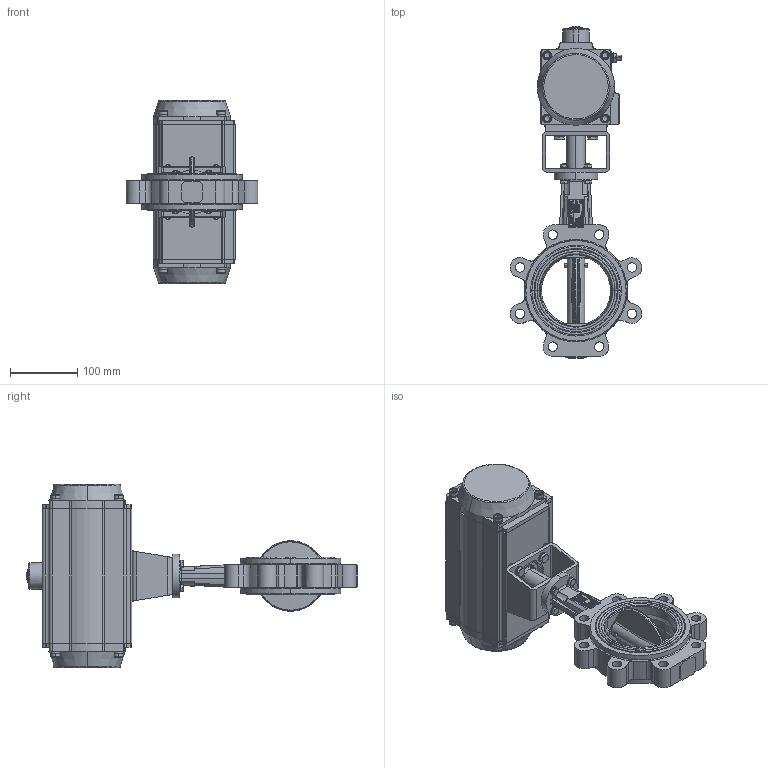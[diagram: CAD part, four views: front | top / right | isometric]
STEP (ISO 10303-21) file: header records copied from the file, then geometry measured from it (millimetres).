
FILE_DESCRIPTION (( 'STEP AP214' ), '1' );
FILE_NAME ('VPG464X-N07XX0100.step', '2022-06-07T06:25:34', ( '' ), ( '' ), 'SwSTEP 2.0', 'SolidWorks 2020', '' );
FILE_SCHEMA (( 'AUTOMOTIVE_DESIGN' ));
Length unit declared in the file: millimetre
Products named in the file (1): VPG464X-N07XX0100
Bounding box: 195.29 x 493.12 x 272 mm (x, y, z)
Surface area: 372940.9 mm2 (no closed solid volume)
Topology: 0 solids, 104 shells, 915 faces, 4875 edges, 4028 vertices
Faces by surface type: plane 407, cylinder 270, cone 121, bspline 113, torus 4
Entity records: 80582 total; most frequent: CARTESIAN_POINT 35771, ORIENTED_EDGE 6657, DIRECTION 5838, EDGE_CURVE 4871, VERTEX_POINT 4028, LINE 2462, VECTOR 2462, AXIS2_PLACEMENT_3D 1688
